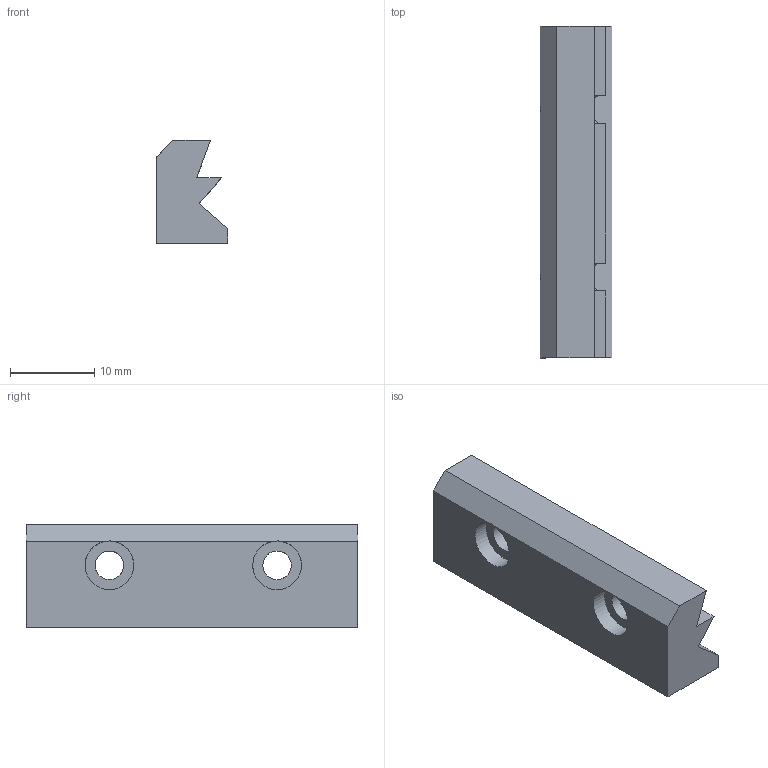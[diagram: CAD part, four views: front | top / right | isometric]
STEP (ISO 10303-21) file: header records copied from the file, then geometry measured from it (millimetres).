
FILE_DESCRIPTION(('HOOPS Exchange Step'),'2;1');
FILE_NAME('/private/var/mobile/Containers/Data/Application/90C05819-CB43-49CD-8FF6-5EA1F08262E4/tmp/export/temp_export','2026-05-22T13:36:24-05:00',('mobile'),('Shapr3D Limited'),'HOOPS Exchange 2025.9','Shapr3D','Authorized');
FILE_SCHEMA( ('AP242_MANAGED_MODEL_BASED_3D_ENGINEERING_MIM_LF {1 0 10303 442 1 1 4}') );
Length unit declared in the file: millimetre
Products named in the file (2): Lmao laser clamp.step; root
Assembly tree (1 placements, depth 2):
  root
    Lmao laser clamp.step
Bounding box: 8.57 x 39.5 x 12.26 mm (x, y, z)
Volume: 2916.8 mm3; surface area: 1998.1 mm2
Topology: 1 solids, 1 shells, 20 faces, 60 edges, 40 vertices
Faces by surface type: plane 16, cylinder 4
Full cylindrical faces by diameter (mm): 3.4 x2, 5.8 x2
Entity records: 745 total; most frequent: CARTESIAN_POINT 156, ORIENTED_EDGE 120, DIRECTION 104, EDGE_CURVE 60, VECTOR 44, LINE 44, VERTEX_POINT 40, AXIS2_PLACEMENT_3D 30
